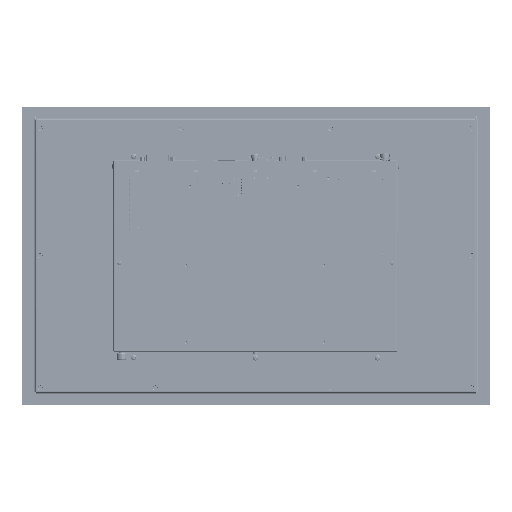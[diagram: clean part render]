
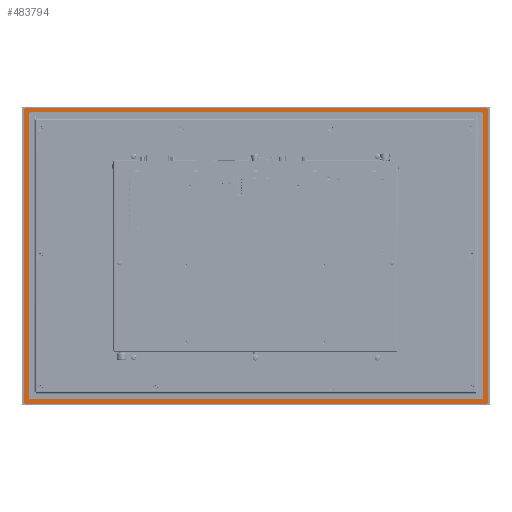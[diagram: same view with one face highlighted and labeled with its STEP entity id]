
A CAD part, front view. The second image highlights one B-rep face of the part: STEP entity #483794.
In plain terms, the highlighted planar face has unit normal (0, -1, 0) as drawn and (0, 1, 0) by its records, which use the part's own axes.
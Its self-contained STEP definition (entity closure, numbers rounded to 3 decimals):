
#5638 = VECTOR ( 'NONE', #740757, 1000. ) ;
#30718 = CARTESIAN_POINT ( 'NONE',  ( -244., 2., -153. ) ) ;
#34062 = DIRECTION ( 'NONE',  ( 0., 0., 1. ) ) ;
#37177 = CARTESIAN_POINT ( 'NONE',  ( 247., 2., -157. ) ) ;
#37733 = EDGE_CURVE ( 'NONE', #234798, #144573, #530721, .T. ) ;
#46707 = EDGE_CURVE ( 'NONE', #592455, #413582, #685316, .T. ) ;
#61177 = CIRCLE ( 'NONE', #747367, 2. ) ;
#66172 = CARTESIAN_POINT ( 'NONE',  ( -247., 2., -159. ) ) ;
#66654 = LINE ( 'NONE', #611960, #128316 ) ;
#76268 = VERTEX_POINT ( 'NONE', #558260 ) ;
#78381 = CARTESIAN_POINT ( 'NONE',  ( -247., 2., -157. ) ) ;
#90156 = DIRECTION ( 'NONE',  ( 0., -1., 0. ) ) ;
#94228 = VERTEX_POINT ( 'NONE', #229631 ) ;
#99282 = VECTOR ( 'NONE', #438832, 1000. ) ;
#101545 = DIRECTION ( 'NONE',  ( -1., 0., 0. ) ) ;
#128316 = VECTOR ( 'NONE', #274256, 1000. ) ;
#144573 = VERTEX_POINT ( 'NONE', #737981 ) ;
#144969 = EDGE_CURVE ( 'NONE', #269045, #94228, #533546, .T. ) ;
#159894 = DIRECTION ( 'NONE',  ( 0., 0., 1. ) ) ;
#164073 = CARTESIAN_POINT ( 'NONE',  ( -247., 2., 157. ) ) ;
#169208 = EDGE_CURVE ( 'NONE', #320716, #76268, #66654, .T. ) ;
#170528 = VERTEX_POINT ( 'NONE', #471401 ) ;
#172251 = ORIENTED_EDGE ( 'NONE', *, *, #577944, .T. ) ;
#175040 = ORIENTED_EDGE ( 'NONE', *, *, #671679, .T. ) ;
#189230 = DIRECTION ( 'NONE',  ( -1., 0., 0. ) ) ;
#195586 = EDGE_CURVE ( 'NONE', #326423, #592455, #61177, .T. ) ;
#198071 = EDGE_CURVE ( 'NONE', #688947, #280612, #307716, .T. ) ;
#214294 = DIRECTION ( 'NONE',  ( 1., 0., 0. ) ) ;
#214533 = AXIS2_PLACEMENT_3D ( 'NONE', #339841, #417051, #534513 ) ;
#225925 = CARTESIAN_POINT ( 'NONE',  ( -249., 2., -157. ) ) ;
#229631 = CARTESIAN_POINT ( 'NONE',  ( -243., 2., -154. ) ) ;
#234798 = VERTEX_POINT ( 'NONE', #354164 ) ;
#237822 = ORIENTED_EDGE ( 'NONE', *, *, #659904, .T. ) ;
#244391 = CARTESIAN_POINT ( 'NONE',  ( 244., 2., -153. ) ) ;
#255624 = AXIS2_PLACEMENT_3D ( 'NONE', #617937, #489043, #159894 ) ;
#264018 = VECTOR ( 'NONE', #101545, 1000. ) ;
#266403 = CIRCLE ( 'NONE', #719836, 2. ) ;
#269045 = VERTEX_POINT ( 'NONE', #30718 ) ;
#274256 = DIRECTION ( 'NONE',  ( 0., 0., 1. ) ) ;
#274668 = LINE ( 'NONE', #748686, #264018 ) ;
#280612 = VERTEX_POINT ( 'NONE', #307650 ) ;
#307650 = CARTESIAN_POINT ( 'NONE',  ( -243., 2., 154. ) ) ;
#307716 = LINE ( 'NONE', #707603, #586081 ) ;
#309795 = CIRCLE ( 'NONE', #398291, 2. ) ;
#314690 = FACE_OUTER_BOUND ( 'NONE', #821710, .T. ) ;
#315998 = CARTESIAN_POINT ( 'NONE',  ( -243., 2., 153. ) ) ;
#320716 = VERTEX_POINT ( 'NONE', #244391 ) ;
#326423 = VERTEX_POINT ( 'NONE', #66172 ) ;
#329696 = CARTESIAN_POINT ( 'NONE',  ( 243., 2., 153. ) ) ;
#339841 = CARTESIAN_POINT ( 'NONE',  ( 0., 2., 0. ) ) ;
#342451 = ORIENTED_EDGE ( 'NONE', *, *, #420541, .T. ) ;
#343101 = CARTESIAN_POINT ( 'NONE',  ( -247., 2., 159. ) ) ;
#353610 = CARTESIAN_POINT ( 'NONE',  ( -243., 2., -153. ) ) ;
#354164 = CARTESIAN_POINT ( 'NONE',  ( 247., 2., 159. ) ) ;
#360750 = CARTESIAN_POINT ( 'NONE',  ( -249., 2., 157. ) ) ;
#375247 = CARTESIAN_POINT ( 'NONE',  ( 243., 2., -154. ) ) ;
#384643 = VERTEX_POINT ( 'NONE', #677746 ) ;
#386421 = CIRCLE ( 'NONE', #801517, 1. ) ;
#398291 = AXIS2_PLACEMENT_3D ( 'NONE', #37177, #695644, #495174 ) ;
#400765 = ORIENTED_EDGE ( 'NONE', *, *, #474582, .T. ) ;
#403842 = EDGE_CURVE ( 'NONE', #648907, #326423, #274668, .T. ) ;
#406657 = ORIENTED_EDGE ( 'NONE', *, *, #825309, .T. ) ;
#413582 = VERTEX_POINT ( 'NONE', #360750 ) ;
#417051 = DIRECTION ( 'NONE',  ( 0., 1., 0. ) ) ;
#420541 = EDGE_CURVE ( 'NONE', #170528, #269045, #713928, .T. ) ;
#435853 = CARTESIAN_POINT ( 'NONE',  ( 247., 2., -159. ) ) ;
#438832 = DIRECTION ( 'NONE',  ( 0., 0., -1. ) ) ;
#439129 = CARTESIAN_POINT ( 'NONE',  ( 249., 2., -157. ) ) ;
#470543 = DIRECTION ( 'NONE',  ( 0., 1., 0. ) ) ;
#471401 = CARTESIAN_POINT ( 'NONE',  ( -244., 2., 153. ) ) ;
#474582 = EDGE_CURVE ( 'NONE', #384643, #234798, #580205, .T. ) ;
#479540 = EDGE_CURVE ( 'NONE', #144573, #488060, #486961, .T. ) ;
#483794 = ADVANCED_FACE ( 'NONE', ( #776494, #314690 ), #732096, .T. ) ;
#486961 = LINE ( 'NONE', #603418, #5638 ) ;
#488060 = VERTEX_POINT ( 'NONE', #439129 ) ;
#488818 = CIRCLE ( 'NONE', #497747, 1. ) ;
#489043 = DIRECTION ( 'NONE',  ( 0., 1., 0. ) ) ;
#495174 = DIRECTION ( 'NONE',  ( 1., 0., 0. ) ) ;
#497747 = AXIS2_PLACEMENT_3D ( 'NONE', #704630, #836487, #578390 ) ;
#499812 = ORIENTED_EDGE ( 'NONE', *, *, #403842, .T. ) ;
#514907 = ORIENTED_EDGE ( 'NONE', *, *, #198071, .T. ) ;
#530721 = CIRCLE ( 'NONE', #255624, 2. ) ;
#530802 = DIRECTION ( 'NONE',  ( 0., 0., -1. ) ) ;
#531491 = VECTOR ( 'NONE', #34062, 1000. ) ;
#533546 = CIRCLE ( 'NONE', #633457, 1. ) ;
#534513 = DIRECTION ( 'NONE',  ( 1., 0., 0. ) ) ;
#539161 = VECTOR ( 'NONE', #214294, 1000. ) ;
#544851 = EDGE_CURVE ( 'NONE', #488060, #648907, #309795, .T. ) ;
#558260 = CARTESIAN_POINT ( 'NONE',  ( 244., 2., 153. ) ) ;
#577944 = EDGE_CURVE ( 'NONE', #76268, #688947, #680906, .T. ) ;
#578390 = DIRECTION ( 'NONE',  ( 0., 0., -1. ) ) ;
#580205 = LINE ( 'NONE', #343101, #539161 ) ;
#586081 = VECTOR ( 'NONE', #189230, 1000. ) ;
#592455 = VERTEX_POINT ( 'NONE', #844842 ) ;
#593015 = DIRECTION ( 'NONE',  ( 1., 0., 0. ) ) ;
#603418 = CARTESIAN_POINT ( 'NONE',  ( 249., 2., 157. ) ) ;
#611960 = CARTESIAN_POINT ( 'NONE',  ( 244., 2., -153. ) ) ;
#617937 = CARTESIAN_POINT ( 'NONE',  ( 247., 2., 157. ) ) ;
#622103 = DIRECTION ( 'NONE',  ( 0., 1., 0. ) ) ;
#633457 = AXIS2_PLACEMENT_3D ( 'NONE', #353610, #90156, #685674 ) ;
#639786 = ORIENTED_EDGE ( 'NONE', *, *, #195586, .T. ) ;
#645221 = DIRECTION ( 'NONE',  ( 0., 0., 1. ) ) ;
#645593 = VERTEX_POINT ( 'NONE', #375247 ) ;
#648907 = VERTEX_POINT ( 'NONE', #435853 ) ;
#659904 = EDGE_CURVE ( 'NONE', #645593, #320716, #488818, .T. ) ;
#671679 = EDGE_CURVE ( 'NONE', #280612, #170528, #386421, .T. ) ;
#676140 = DIRECTION ( 'NONE',  ( 1., 0., 0. ) ) ;
#676896 = EDGE_CURVE ( 'NONE', #94228, #645593, #730561, .T. ) ;
#677746 = CARTESIAN_POINT ( 'NONE',  ( -247., 2., 159. ) ) ;
#680906 = CIRCLE ( 'NONE', #806358, 1. ) ;
#685316 = LINE ( 'NONE', #225925, #531491 ) ;
#685674 = DIRECTION ( 'NONE',  ( -1., 0., 0. ) ) ;
#688947 = VERTEX_POINT ( 'NONE', #798691 ) ;
#690857 = ORIENTED_EDGE ( 'NONE', *, *, #46707, .T. ) ;
#695644 = DIRECTION ( 'NONE',  ( 0., 1., 0. ) ) ;
#696628 = CARTESIAN_POINT ( 'NONE',  ( -244., 2., 153. ) ) ;
#699503 = VECTOR ( 'NONE', #676140, 1000. ) ;
#704630 = CARTESIAN_POINT ( 'NONE',  ( 243., 2., -153. ) ) ;
#707603 = CARTESIAN_POINT ( 'NONE',  ( 243., 2., 154. ) ) ;
#713928 = LINE ( 'NONE', #696628, #99282 ) ;
#719836 = AXIS2_PLACEMENT_3D ( 'NONE', #164073, #622103, #822700 ) ;
#725343 = EDGE_LOOP ( 'NONE', ( #237822, #783020, #172251, #514907, #175040, #342451, #845587, #781302 ) ) ;
#727551 = DIRECTION ( 'NONE',  ( 0., -1., 0. ) ) ;
#730561 = LINE ( 'NONE', #741873, #699503 ) ;
#732096 = PLANE ( 'NONE',  #214533 ) ;
#737981 = CARTESIAN_POINT ( 'NONE',  ( 249., 2., 157. ) ) ;
#740757 = DIRECTION ( 'NONE',  ( 0., 0., -1. ) ) ;
#741873 = CARTESIAN_POINT ( 'NONE',  ( -243., 2., -154. ) ) ;
#747367 = AXIS2_PLACEMENT_3D ( 'NONE', #78381, #470543, #530802 ) ;
#748686 = CARTESIAN_POINT ( 'NONE',  ( 247., 2., -159. ) ) ;
#757191 = ORIENTED_EDGE ( 'NONE', *, *, #479540, .T. ) ;
#765716 = DIRECTION ( 'NONE',  ( 0., -1., 0. ) ) ;
#775457 = ORIENTED_EDGE ( 'NONE', *, *, #544851, .T. ) ;
#776494 = FACE_BOUND ( 'NONE', #725343, .T. ) ;
#781302 = ORIENTED_EDGE ( 'NONE', *, *, #676896, .T. ) ;
#781896 = ORIENTED_EDGE ( 'NONE', *, *, #37733, .T. ) ;
#783020 = ORIENTED_EDGE ( 'NONE', *, *, #169208, .T. ) ;
#798691 = CARTESIAN_POINT ( 'NONE',  ( 243., 2., 154. ) ) ;
#801517 = AXIS2_PLACEMENT_3D ( 'NONE', #315998, #765716, #645221 ) ;
#806358 = AXIS2_PLACEMENT_3D ( 'NONE', #329696, #727551, #593015 ) ;
#821710 = EDGE_LOOP ( 'NONE', ( #690857, #406657, #400765, #781896, #757191, #775457, #499812, #639786 ) ) ;
#822700 = DIRECTION ( 'NONE',  ( -1., 0., 0. ) ) ;
#825309 = EDGE_CURVE ( 'NONE', #413582, #384643, #266403, .T. ) ;
#836487 = DIRECTION ( 'NONE',  ( 0., -1., 0. ) ) ;
#844842 = CARTESIAN_POINT ( 'NONE',  ( -249., 2., -157. ) ) ;
#845587 = ORIENTED_EDGE ( 'NONE', *, *, #144969, .T. ) ;
